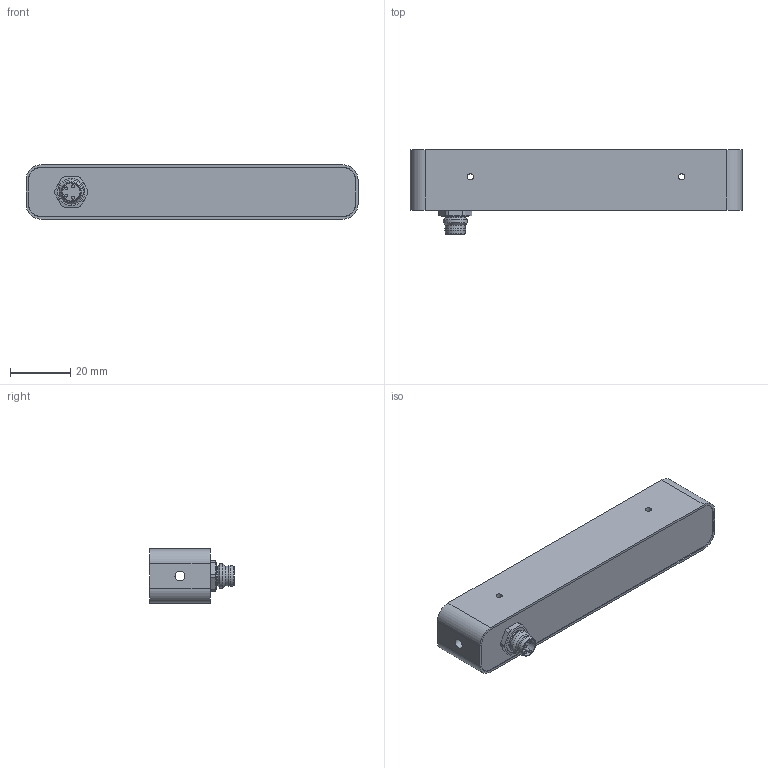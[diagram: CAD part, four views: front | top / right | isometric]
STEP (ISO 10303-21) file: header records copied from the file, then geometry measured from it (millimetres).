
FILE_DESCRIPTION (( 'STEP AP214' ), '1' );
FILE_NAME ('00695.01 Basisbaugruppe SBL-0110 Step18082020.STEP', '2020-08-18T13:08:41', ( '' ), ( '' ), 'SwSTEP 2.0', 'SolidWorks 2013', '' );
FILE_SCHEMA (( 'AUTOMOTIVE_DESIGN' ));
Length unit declared in the file: millimetre
Products named in the file (1): 00695.01 Basisbaugruppe SBL-0110 Step18082020
Bounding box: 110 x 28 x 18 mm (x, y, z)
Surface area: 11525.4 mm2 (no closed solid volume)
Topology: 0 solids, 9 shells, 73 faces, 215 edges, 153 vertices
Faces by surface type: cylinder 33, plane 33, cone 5, bspline 2
Full cylindrical faces by diameter (mm): 1 x4, 2.05 x4, 3.3 x2, 5.8 x1, 6.5 x2, 6.9 x1, 8 x1
Entity records: 3812 total; most frequent: CARTESIAN_POINT 1156, DIRECTION 400, ORIENTED_EDGE 297, EDGE_CURVE 186, AXIS2_PLACEMENT_3D 157, VERTEX_POINT 146, EDGE_LOOP 107, FACE_OUTER_BOUND 90
